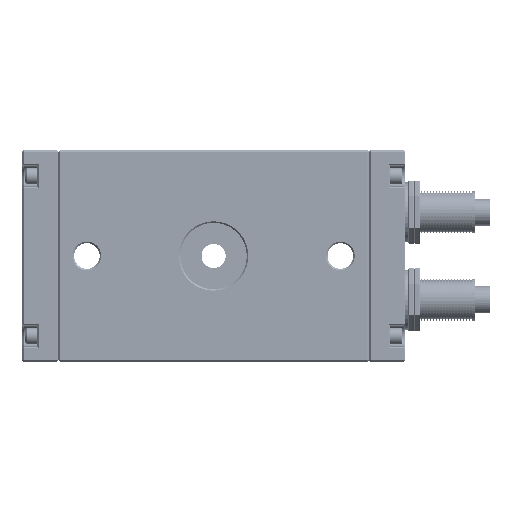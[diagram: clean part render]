
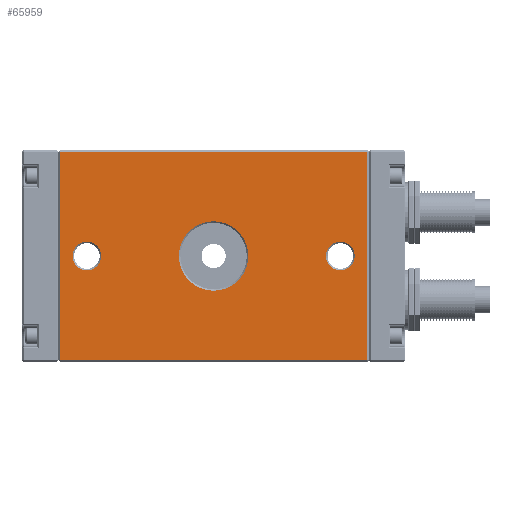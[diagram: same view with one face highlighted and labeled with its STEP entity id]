
A CAD part, front view. The second image highlights one B-rep face of the part: STEP entity #65959.
In plain terms, the highlighted planar face has unit normal (0, -1, 0) as drawn and (0, 0, -1) by its records, which use the part's own axes.
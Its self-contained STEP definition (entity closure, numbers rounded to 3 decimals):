
#62879 = VERTEX_POINT ( 'NONE', #113771 ) ;
#62887 = VERTEX_POINT ( 'NONE', #113757 ) ;
#62958 = EDGE_CURVE ( 'NONE', #62961, #62995, #114015, .T. ) ;
#62961 = VERTEX_POINT ( 'NONE', #113873 ) ;
#62977 = VERTEX_POINT ( 'NONE', #114074 ) ;
#62982 = VERTEX_POINT ( 'NONE', #114071 ) ;
#62985 = EDGE_CURVE ( 'NONE', #62887, #62879, #114063, .T. ) ;
#62995 = VERTEX_POINT ( 'NONE', #114098 ) ;
#63085 = EDGE_CURVE ( 'NONE', #62977, #62982, #114409, .T. ) ;
#65959 = ADVANCED_FACE ( 'NONE', ( #124064, #124081, #124058, #124087 ), #124072, .T. ) ;
#66041 = ORIENTED_EDGE ( 'NONE', *, *, #66188, .T. ) ;
#66043 = EDGE_CURVE ( 'NONE', #66183, #66084, #124322, .T. ) ;
#66055 = ORIENTED_EDGE ( 'NONE', *, *, #63085, .T. ) ;
#66057 = EDGE_CURVE ( 'NONE', #62995, #62961, #124303, .T. ) ;
#66061 = EDGE_LOOP ( 'NONE', ( #66080, #66088 ) ) ;
#66062 = ORIENTED_EDGE ( 'NONE', *, *, #66065, .T. ) ;
#66064 = EDGE_LOOP ( 'NONE', ( #66073, #66071 ) ) ;
#66065 = EDGE_CURVE ( 'NONE', #62982, #62977, #124314, .T. ) ;
#66068 = VERTEX_POINT ( 'NONE', #124296 ) ;
#66069 = EDGE_CURVE ( 'NONE', #62879, #62887, #124316, .T. ) ;
#66070 = EDGE_CURVE ( 'NONE', #66084, #66086, #124270, .T. ) ;
#66071 = ORIENTED_EDGE ( 'NONE', *, *, #66057, .T. ) ;
#66073 = ORIENTED_EDGE ( 'NONE', *, *, #62958, .T. ) ;
#66075 = EDGE_LOOP ( 'NONE', ( #66182, #66187, #66041, #66077 ) ) ;
#66077 = ORIENTED_EDGE ( 'NONE', *, *, #66043, .T. ) ;
#66080 = ORIENTED_EDGE ( 'NONE', *, *, #62985, .T. ) ;
#66084 = VERTEX_POINT ( 'NONE', #124287 ) ;
#66086 = VERTEX_POINT ( 'NONE', #124272 ) ;
#66088 = ORIENTED_EDGE ( 'NONE', *, *, #66069, .T. ) ;
#66099 = EDGE_LOOP ( 'NONE', ( #66055, #66062 ) ) ;
#66182 = ORIENTED_EDGE ( 'NONE', *, *, #66070, .T. ) ;
#66183 = VERTEX_POINT ( 'NONE', #124505 ) ;
#66184 = EDGE_CURVE ( 'NONE', #66086, #66068, #124473, .T. ) ;
#66187 = ORIENTED_EDGE ( 'NONE', *, *, #66184, .T. ) ;
#66188 = EDGE_CURVE ( 'NONE', #66068, #66183, #124501, .T. ) ;
#113757 = CARTESIAN_POINT ( 'NONE',  ( 40., 35., 0. ) ) ;
#113771 = CARTESIAN_POINT ( 'NONE',  ( 63., 35., 0. ) ) ;
#113873 = CARTESIAN_POINT ( 'NONE',  ( 88.75, 35., 0. ) ) ;
#113970 = DIRECTION ( 'NONE',  ( -1., 0., 0. ) ) ;
#113972 = DIRECTION ( 'NONE',  ( 0., 0., 1. ) ) ;
#113978 = CARTESIAN_POINT ( 'NONE',  ( 93.5, 35., 0. ) ) ;
#113991 = AXIS2_PLACEMENT_3D ( 'NONE', #113978, #113972, #113970 ) ;
#114015 = CIRCLE ( 'NONE', #113991, 4.75 ) ;
#114035 = DIRECTION ( 'NONE',  ( -1., 0., 0. ) ) ;
#114037 = DIRECTION ( 'NONE',  ( 0., 0., 1. ) ) ;
#114038 = CARTESIAN_POINT ( 'NONE',  ( 51.5, 35., 0. ) ) ;
#114040 = AXIS2_PLACEMENT_3D ( 'NONE', #114038, #114037, #114035 ) ;
#114063 = CIRCLE ( 'NONE', #114040, 11.5 ) ;
#114071 = CARTESIAN_POINT ( 'NONE',  ( 14.25, 35., 0. ) ) ;
#114074 = CARTESIAN_POINT ( 'NONE',  ( 4.75, 35., 0. ) ) ;
#114098 = CARTESIAN_POINT ( 'NONE',  ( 98.25, 35., 0. ) ) ;
#114275 = CARTESIAN_POINT ( 'NONE',  ( 9.5, 35., 0. ) ) ;
#114404 = DIRECTION ( 'NONE',  ( -1., 0., 0. ) ) ;
#114406 = DIRECTION ( 'NONE',  ( 0., 0., 1. ) ) ;
#114407 = AXIS2_PLACEMENT_3D ( 'NONE', #114275, #114406, #114404 ) ;
#114409 = CIRCLE ( 'NONE', #114407, 4.75 ) ;
#123958 = AXIS2_PLACEMENT_3D ( 'NONE', #124095, #124044, #124042 ) ;
#124042 = DIRECTION ( 'NONE',  ( -1., 0., 0. ) ) ;
#124044 = DIRECTION ( 'NONE',  ( 0., 0., -1. ) ) ;
#124058 = FACE_BOUND ( 'NONE', #66061, .T. ) ;
#124064 = FACE_BOUND ( 'NONE', #66099, .T. ) ;
#124072 = PLANE ( 'NONE',  #123958 ) ;
#124081 = FACE_BOUND ( 'NONE', #66064, .T. ) ;
#124087 = FACE_OUTER_BOUND ( 'NONE', #66075, .T. ) ;
#124095 = CARTESIAN_POINT ( 'NONE',  ( 0., 70., 0. ) ) ;
#124264 = DIRECTION ( 'NONE',  ( -1., 0., 0. ) ) ;
#124265 = DIRECTION ( 'NONE',  ( 0., 0., 1. ) ) ;
#124267 = CARTESIAN_POINT ( 'NONE',  ( 51.5, 35., 0. ) ) ;
#124268 = AXIS2_PLACEMENT_3D ( 'NONE', #124267, #124265, #124264 ) ;
#124270 = LINE ( 'NONE', #124399, #124398 ) ;
#124272 = CARTESIAN_POINT ( 'NONE',  ( 0.5, 0.5, 0. ) ) ;
#124277 = DIRECTION ( 'NONE',  ( -1., 0., 0. ) ) ;
#124278 = DIRECTION ( 'NONE',  ( 0., 0., 1. ) ) ;
#124280 = CARTESIAN_POINT ( 'NONE',  ( 9.5, 35., 0. ) ) ;
#124287 = CARTESIAN_POINT ( 'NONE',  ( 102.5, 0.5, 0. ) ) ;
#124289 = DIRECTION ( 'NONE',  ( -1., 0., 0. ) ) ;
#124291 = DIRECTION ( 'NONE',  ( 0., 0., 1. ) ) ;
#124296 = CARTESIAN_POINT ( 'NONE',  ( 0.5, 69.5, 0. ) ) ;
#124297 = AXIS2_PLACEMENT_3D ( 'NONE', #124309, #124291, #124289 ) ;
#124303 = CIRCLE ( 'NONE', #124297, 4.75 ) ;
#124307 = AXIS2_PLACEMENT_3D ( 'NONE', #124280, #124278, #124277 ) ;
#124309 = CARTESIAN_POINT ( 'NONE',  ( 93.5, 35., 0. ) ) ;
#124314 = CIRCLE ( 'NONE', #124307, 4.75 ) ;
#124316 = CIRCLE ( 'NONE', #124268, 11.5 ) ;
#124317 = DIRECTION ( 'NONE',  ( 0., -1., 0. ) ) ;
#124319 = VECTOR ( 'NONE', #124317, 1000. ) ;
#124321 = CARTESIAN_POINT ( 'NONE',  ( 102.5, 0., 0. ) ) ;
#124322 = LINE ( 'NONE', #124321, #124319 ) ;
#124396 = DIRECTION ( 'NONE',  ( -1., 0., 0. ) ) ;
#124398 = VECTOR ( 'NONE', #124396, 1000. ) ;
#124399 = CARTESIAN_POINT ( 'NONE',  ( 0., 0.5, 0. ) ) ;
#124470 = DIRECTION ( 'NONE',  ( 0., 1., 0. ) ) ;
#124471 = CARTESIAN_POINT ( 'NONE',  ( 0.5, 70., 0. ) ) ;
#124473 = LINE ( 'NONE', #124471, #124492 ) ;
#124488 = DIRECTION ( 'NONE',  ( 1., 0., 0. ) ) ;
#124490 = CARTESIAN_POINT ( 'NONE',  ( 103., 69.5, 0. ) ) ;
#124492 = VECTOR ( 'NONE', #124470, 1000. ) ;
#124501 = LINE ( 'NONE', #124490, #124611 ) ;
#124505 = CARTESIAN_POINT ( 'NONE',  ( 102.5, 69.5, 0. ) ) ;
#124611 = VECTOR ( 'NONE', #124488, 1000. ) ;
